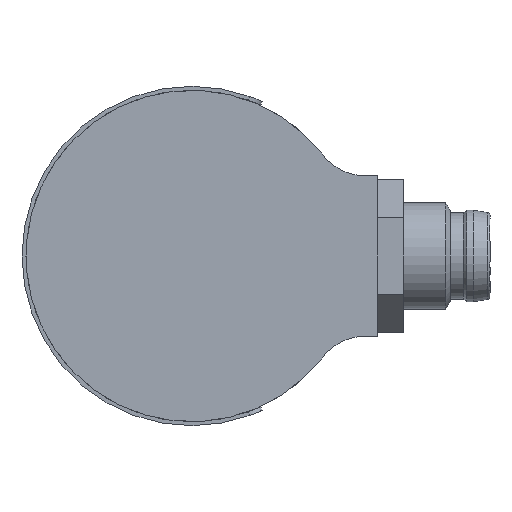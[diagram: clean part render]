
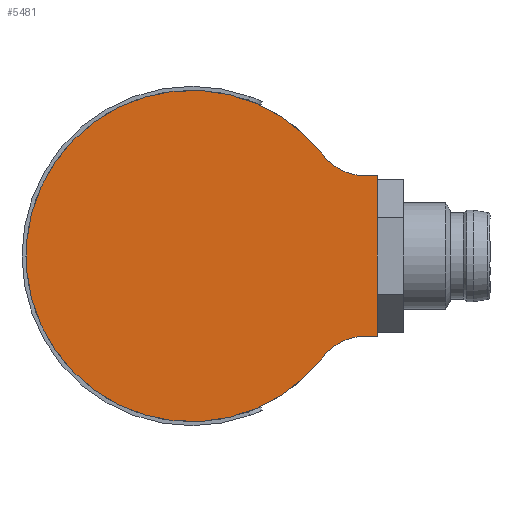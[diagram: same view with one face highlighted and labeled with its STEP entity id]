
A CAD part, left-side view. The second image highlights one B-rep face of the part: STEP entity #5481.
In plain terms, the highlighted planar face has unit normal (-1, 0, 0).
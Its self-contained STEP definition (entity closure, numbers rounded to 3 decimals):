
#69 = DIRECTION ( 'NONE',  ( 1., 0., 0. ) ) ;
#99 = CIRCLE ( 'NONE', #4582, 12.5 ) ;
#119 = CARTESIAN_POINT ( 'NONE',  ( -36.5, -14., 6.05 ) ) ;
#290 = DIRECTION ( 'NONE',  ( 0., 1., 0. ) ) ;
#313 = VERTEX_POINT ( 'NONE', #5282 ) ;
#403 = VERTEX_POINT ( 'NONE', #2213 ) ;
#409 = CARTESIAN_POINT ( 'NONE',  ( -36.5, -13.086, -10.05 ) ) ;
#567 = DIRECTION ( 'NONE',  ( 0., -1., 0. ) ) ;
#577 = DIRECTION ( 'NONE',  ( 0., 1., 0. ) ) ;
#941 = AXIS2_PLACEMENT_3D ( 'NONE', #4928, #2718, #577 ) ;
#1588 = VECTOR ( 'NONE', #5234, 1000. ) ;
#1726 = CARTESIAN_POINT ( 'NONE',  ( -36.5, -14., 6.05 ) ) ;
#1740 = AXIS2_PLACEMENT_3D ( 'NONE', #4210, #2018, #290 ) ;
#1990 = FACE_OUTER_BOUND ( 'NONE', #2972, .T. ) ;
#2018 = DIRECTION ( 'NONE',  ( -1., 0., 0. ) ) ;
#2033 = AXIS2_PLACEMENT_3D ( 'NONE', #409, #69, #4844 ) ;
#2062 = CARTESIAN_POINT ( 'NONE',  ( -36.5, 12.501, -6.05 ) ) ;
#2213 = CARTESIAN_POINT ( 'NONE',  ( -36.5, -14., -6.05 ) ) ;
#2250 = CARTESIAN_POINT ( 'NONE',  ( -36.5, 0., 0. ) ) ;
#2456 = EDGE_CURVE ( 'NONE', #3103, #4594, #5509, .T. ) ;
#2459 = PLANE ( 'NONE',  #1740 ) ;
#2577 = LINE ( 'NONE', #2062, #5432 ) ;
#2710 = DIRECTION ( 'NONE',  ( 1., 0., 0. ) ) ;
#2718 = DIRECTION ( 'NONE',  ( 1., 0., 0. ) ) ;
#2767 = ORIENTED_EDGE ( 'NONE', *, *, #3877, .F. ) ;
#2862 = ORIENTED_EDGE ( 'NONE', *, *, #2456, .T. ) ;
#2972 = EDGE_LOOP ( 'NONE', ( #2767, #2862, #5467, #3190, #3239, #4948 ) ) ;
#3103 = VERTEX_POINT ( 'NONE', #3896 ) ;
#3162 = EDGE_CURVE ( 'NONE', #4594, #403, #2577, .T. ) ;
#3190 = ORIENTED_EDGE ( 'NONE', *, *, #3808, .T. ) ;
#3239 = ORIENTED_EDGE ( 'NONE', *, *, #3811, .F. ) ;
#3490 = CARTESIAN_POINT ( 'NONE',  ( -36.5, 12.501, 6.05 ) ) ;
#3808 = EDGE_CURVE ( 'NONE', #403, #3918, #3979, .T. ) ;
#3811 = EDGE_CURVE ( 'NONE', #4894, #3918, #4829, .T. ) ;
#3877 = EDGE_CURVE ( 'NONE', #3103, #313, #99, .T. ) ;
#3896 = CARTESIAN_POINT ( 'NONE',  ( -36.5, -9.914, -7.614 ) ) ;
#3918 = VERTEX_POINT ( 'NONE', #119 ) ;
#3958 = CIRCLE ( 'NONE', #941, 4. ) ;
#3979 = LINE ( 'NONE', #1726, #4066 ) ;
#4066 = VECTOR ( 'NONE', #4324, 1000. ) ;
#4210 = CARTESIAN_POINT ( 'NONE',  ( -36.5, 0., 0. ) ) ;
#4324 = DIRECTION ( 'NONE',  ( 0., 0., 1. ) ) ;
#4582 = AXIS2_PLACEMENT_3D ( 'NONE', #2250, #2710, #567 ) ;
#4594 = VERTEX_POINT ( 'NONE', #4989 ) ;
#4649 = CARTESIAN_POINT ( 'NONE',  ( -36.5, -13.086, 6.05 ) ) ;
#4678 = DIRECTION ( 'NONE',  ( 0., -1., 0. ) ) ;
#4829 = LINE ( 'NONE', #3490, #1588 ) ;
#4844 = DIRECTION ( 'NONE',  ( 0., 1., 0. ) ) ;
#4894 = VERTEX_POINT ( 'NONE', #4649 ) ;
#4928 = CARTESIAN_POINT ( 'NONE',  ( -36.5, -13.086, 10.05 ) ) ;
#4948 = ORIENTED_EDGE ( 'NONE', *, *, #5177, .T. ) ;
#4989 = CARTESIAN_POINT ( 'NONE',  ( -36.5, -13.086, -6.05 ) ) ;
#5177 = EDGE_CURVE ( 'NONE', #4894, #313, #3958, .T. ) ;
#5234 = DIRECTION ( 'NONE',  ( 0., -1., 0. ) ) ;
#5282 = CARTESIAN_POINT ( 'NONE',  ( -36.5, -9.914, 7.614 ) ) ;
#5432 = VECTOR ( 'NONE', #4678, 1000. ) ;
#5467 = ORIENTED_EDGE ( 'NONE', *, *, #3162, .T. ) ;
#5481 = ADVANCED_FACE ( 'NONE', ( #1990 ), #2459, .T. ) ;
#5509 = CIRCLE ( 'NONE', #2033, 4. ) ;
